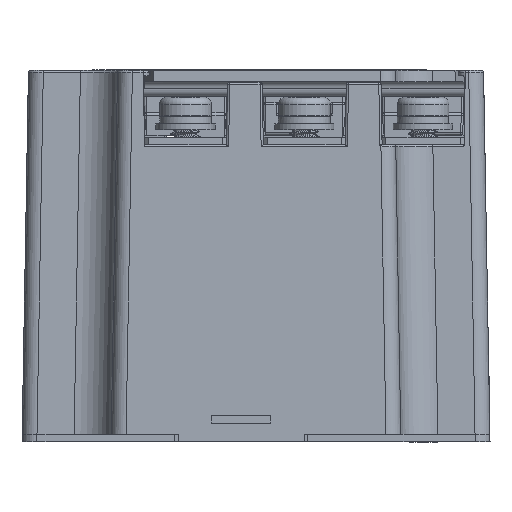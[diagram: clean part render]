
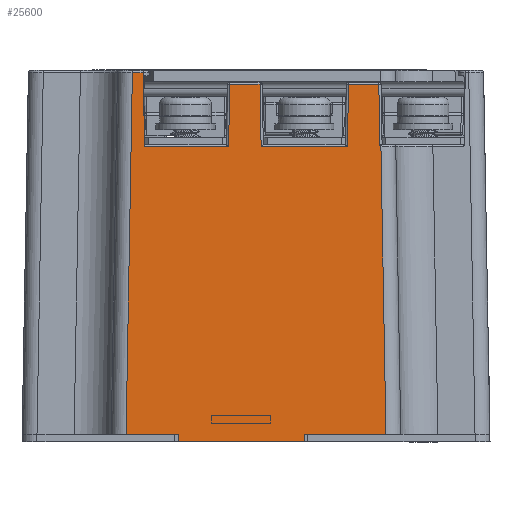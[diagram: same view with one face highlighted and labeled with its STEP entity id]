
A CAD part, left-side view. The second image highlights one B-rep face of the part: STEP entity #25600.
In plain terms, the highlighted planar face has unit normal (-1, 0, 0.018).
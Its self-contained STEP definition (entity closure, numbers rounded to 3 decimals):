
#193=B_SPLINE_CURVE_WITH_KNOTS('',3,(#40164,#40165,#40166,#40167,#40168,
#40169,#40170,#40171,#40172),.UNSPECIFIED.,.F.,.F.,(4,1,1,1,1,1,4),(0.013,
0.017,0.02,0.029,0.038,
0.04,0.043),.UNSPECIFIED.);
#2403=FACE_OUTER_BOUND('',#3877,.T.);
#3877=EDGE_LOOP('',(#19966,#19967,#19968,#19969,#19970,#19971,#19972,#19973,
#19974,#19975,#19976,#19977,#19978,#19979,#19980,#19981,#19982,#19983,#19984));
#6101=LINE('',#40175,#8732);
#6104=LINE('',#40196,#8735);
#6109=LINE('',#40205,#8740);
#6110=LINE('',#40209,#8741);
#6111=LINE('',#40213,#8742);
#6112=LINE('',#40216,#8743);
#6113=LINE('',#40220,#8744);
#6114=LINE('',#40223,#8745);
#6115=LINE('',#40225,#8746);
#6116=LINE('',#40228,#8747);
#6117=LINE('',#40232,#8748);
#6118=LINE('',#40235,#8749);
#6119=LINE('',#40237,#8750);
#6120=LINE('',#40239,#8751);
#6342=LINE('',#40919,#8973);
#6477=LINE('',#41246,#9108);
#6478=LINE('',#41249,#9109);
#6479=LINE('',#41250,#9110);
#8732=VECTOR('',#31867,10.);
#8735=VECTOR('',#31872,10.);
#8740=VECTOR('',#31879,10.);
#8741=VECTOR('',#31884,10.);
#8742=VECTOR('',#31889,10.);
#8743=VECTOR('',#31892,10.);
#8744=VECTOR('',#31897,10.);
#8745=VECTOR('',#31902,10.);
#8746=VECTOR('',#31905,10.);
#8747=VECTOR('',#31908,10.);
#8748=VECTOR('',#31913,10.);
#8749=VECTOR('',#31918,10.);
#8750=VECTOR('',#31921,10.);
#8751=VECTOR('',#31924,10.);
#8973=VECTOR('',#32450,10.);
#9108=VECTOR('',#32795,10.);
#9109=VECTOR('',#32798,10.);
#9110=VECTOR('',#32799,10.);
#11059=VERTEX_POINT('',#39042);
#11073=VERTEX_POINT('',#39114);
#11074=VERTEX_POINT('',#39118);
#11079=VERTEX_POINT('',#39136);
#11080=VERTEX_POINT('',#39142);
#11325=VERTEX_POINT('',#40119);
#11327=VERTEX_POINT('',#40162);
#11328=VERTEX_POINT('',#40174);
#11330=VERTEX_POINT('',#40193);
#11331=VERTEX_POINT('',#40195);
#11334=VERTEX_POINT('',#40202);
#11335=VERTEX_POINT('',#40207);
#11336=VERTEX_POINT('',#40211);
#11337=VERTEX_POINT('',#40215);
#11338=VERTEX_POINT('',#40219);
#11339=VERTEX_POINT('',#40227);
#11340=VERTEX_POINT('',#40231);
#11599=VERTEX_POINT('',#41244);
#11600=VERTEX_POINT('',#41248);
#14171=EDGE_CURVE('',#11327,#11325,#193,.T.);
#14172=EDGE_CURVE('',#11325,#11328,#6101,.T.);
#14176=EDGE_CURVE('',#11330,#11331,#6104,.F.);
#14181=EDGE_CURVE('',#11334,#11331,#6109,.T.);
#14183=EDGE_CURVE('',#11335,#11059,#6110,.T.);
#14185=EDGE_CURVE('',#11059,#11336,#6111,.T.);
#14186=EDGE_CURVE('',#11337,#11336,#6112,.F.);
#14188=EDGE_CURVE('',#11337,#11338,#6113,.T.);
#14190=EDGE_CURVE('',#11338,#11073,#6114,.T.);
#14191=EDGE_CURVE('',#11073,#11074,#6115,.T.);
#14192=EDGE_CURVE('',#11074,#11339,#6116,.T.);
#14194=EDGE_CURVE('',#11339,#11340,#6117,.T.);
#14196=EDGE_CURVE('',#11340,#11079,#6118,.T.);
#14197=EDGE_CURVE('',#11079,#11080,#6119,.T.);
#14198=EDGE_CURVE('',#11080,#11327,#6120,.T.);
#14484=EDGE_CURVE('',#11335,#11334,#6342,.T.);
#14649=EDGE_CURVE('',#11599,#11330,#6477,.F.);
#14650=EDGE_CURVE('',#11599,#11600,#6478,.T.);
#14651=EDGE_CURVE('',#11328,#11600,#6479,.T.);
#19966=ORIENTED_EDGE('',*,*,#14198,.F.);
#19967=ORIENTED_EDGE('',*,*,#14197,.F.);
#19968=ORIENTED_EDGE('',*,*,#14196,.F.);
#19969=ORIENTED_EDGE('',*,*,#14194,.F.);
#19970=ORIENTED_EDGE('',*,*,#14192,.F.);
#19971=ORIENTED_EDGE('',*,*,#14191,.F.);
#19972=ORIENTED_EDGE('',*,*,#14190,.F.);
#19973=ORIENTED_EDGE('',*,*,#14188,.F.);
#19974=ORIENTED_EDGE('',*,*,#14186,.T.);
#19975=ORIENTED_EDGE('',*,*,#14185,.F.);
#19976=ORIENTED_EDGE('',*,*,#14183,.F.);
#19977=ORIENTED_EDGE('',*,*,#14484,.T.);
#19978=ORIENTED_EDGE('',*,*,#14181,.T.);
#19979=ORIENTED_EDGE('',*,*,#14176,.F.);
#19980=ORIENTED_EDGE('',*,*,#14649,.F.);
#19981=ORIENTED_EDGE('',*,*,#14650,.T.);
#19982=ORIENTED_EDGE('',*,*,#14651,.F.);
#19983=ORIENTED_EDGE('',*,*,#14172,.F.);
#19984=ORIENTED_EDGE('',*,*,#14171,.F.);
#24512=PLANE('',#27828);
#25600=ADVANCED_FACE('',(#2403),#24512,.T.);
#27828=AXIS2_PLACEMENT_3D('',#41247,#32796,#32797);
#31867=DIRECTION('',(-0.017,-0.017,-1.));
#31872=DIRECTION('',(0.,-1.,0.));
#31879=DIRECTION('',(-0.017,0.,-1.));
#31884=DIRECTION('',(0.017,-0.017,1.));
#31889=DIRECTION('',(0.,-1.,0.));
#31892=DIRECTION('',(-0.017,-0.017,-1.));
#31897=DIRECTION('',(0.,-1.,0.));
#31902=DIRECTION('',(0.017,-0.017,1.));
#31905=DIRECTION('',(0.,-1.,0.));
#31908=DIRECTION('',(-0.017,-0.017,-1.));
#31913=DIRECTION('',(0.,-1.,0.));
#31918=DIRECTION('',(0.017,-0.017,1.));
#31921=DIRECTION('',(0.,-1.,0.));
#31924=DIRECTION('',(-0.017,-0.017,-1.));
#32450=DIRECTION('',(0.,-1.,0.));
#32795=DIRECTION('',(0.017,0.,1.));
#32796=DIRECTION('center_axis',(-1.,0.,0.017));
#32797=DIRECTION('ref_axis',(0.,-1.,0.));
#32798=DIRECTION('',(0.,-1.,0.));
#32799=DIRECTION('',(-0.017,-0.017,-1.));
#39042=CARTESIAN_POINT('',(-63.15,16.65,48.705));
#39114=CARTESIAN_POINT('',(-63.178,3.541,47.105));
#39118=CARTESIAN_POINT('',(-63.178,-0.541,47.105));
#39136=CARTESIAN_POINT('',(-63.178,-12.459,47.105));
#39142=CARTESIAN_POINT('',(-63.178,-16.541,47.105));
#40119=CARTESIAN_POINT('',(-63.324,-16.824,38.75));
#40162=CARTESIAN_POINT('',(-63.319,-16.683,39.));
#40164=CARTESIAN_POINT('Ctrl Pts',(-63.319,-16.683,
39.));
#40165=CARTESIAN_POINT('Ctrl Pts',(-63.32,-16.683,
38.985));
#40166=CARTESIAN_POINT('Ctrl Pts',(-63.32,-16.685,
38.962));
#40167=CARTESIAN_POINT('Ctrl Pts',(-63.321,-16.696,
38.91));
#40168=CARTESIAN_POINT('Ctrl Pts',(-63.322,-16.722,
38.847));
#40169=CARTESIAN_POINT('Ctrl Pts',(-63.323,-16.767,
38.794));
#40170=CARTESIAN_POINT('Ctrl Pts',(-63.323,-16.803,38.764));
#40171=CARTESIAN_POINT('Ctrl Pts',(-63.324,-16.816,
38.755));
#40172=CARTESIAN_POINT('Ctrl Pts',(-63.324,-16.824,
38.75));
#40174=CARTESIAN_POINT('',(-63.324,-16.825,38.705));
#40175=CARTESIAN_POINT('',(-63.565,-17.066,24.899));
#40193=CARTESIAN_POINT('',(-64.017,-6.5,-1.));
#40195=CARTESIAN_POINT('',(-64.017,10.5,-1.));
#40196=CARTESIAN_POINT('',(-64.017,-2.25,-1.));
#40202=CARTESIAN_POINT('',(-64.,10.5,0.));
#40205=CARTESIAN_POINT('',(-64.,10.5,0.));
#40207=CARTESIAN_POINT('',(-64.,17.5,0.));
#40209=CARTESIAN_POINT('',(-63.573,17.074,24.441));
#40211=CARTESIAN_POINT('',(-63.15,15.187,48.705));
#40213=CARTESIAN_POINT('',(-63.15,15.75,48.705));
#40215=CARTESIAN_POINT('',(-63.324,15.012,38.705));
#40216=CARTESIAN_POINT('',(-63.57,14.767,24.641));
#40219=CARTESIAN_POINT('',(-63.324,3.688,38.705));
#40220=CARTESIAN_POINT('',(-63.324,17.741,38.705));
#40223=CARTESIAN_POINT('',(-63.572,3.935,24.514));
#40225=CARTESIAN_POINT('',(-63.178,12.918,47.105));
#40227=CARTESIAN_POINT('',(-63.324,-0.688,38.705));
#40228=CARTESIAN_POINT('',(-63.568,-0.931,24.776));
#40231=CARTESIAN_POINT('',(-63.324,-12.312,38.705));
#40232=CARTESIAN_POINT('',(-63.324,9.741,38.705));
#40235=CARTESIAN_POINT('',(-63.575,-12.062,24.375));
#40237=CARTESIAN_POINT('',(-63.178,12.918,47.105));
#40239=CARTESIAN_POINT('',(-63.565,-16.928,24.915));
#40919=CARTESIAN_POINT('',(-64.,31.5,0.));
#41244=CARTESIAN_POINT('',(-64.,-6.5,0.));
#41246=CARTESIAN_POINT('',(-64.,-6.5,0.01));
#41247=CARTESIAN_POINT('Origin',(-64.,31.5,0.));
#41248=CARTESIAN_POINT('',(-64.,-17.5,0.));
#41249=CARTESIAN_POINT('',(-64.,31.5,0.));
#41250=CARTESIAN_POINT('',(-63.565,-17.066,24.899));
